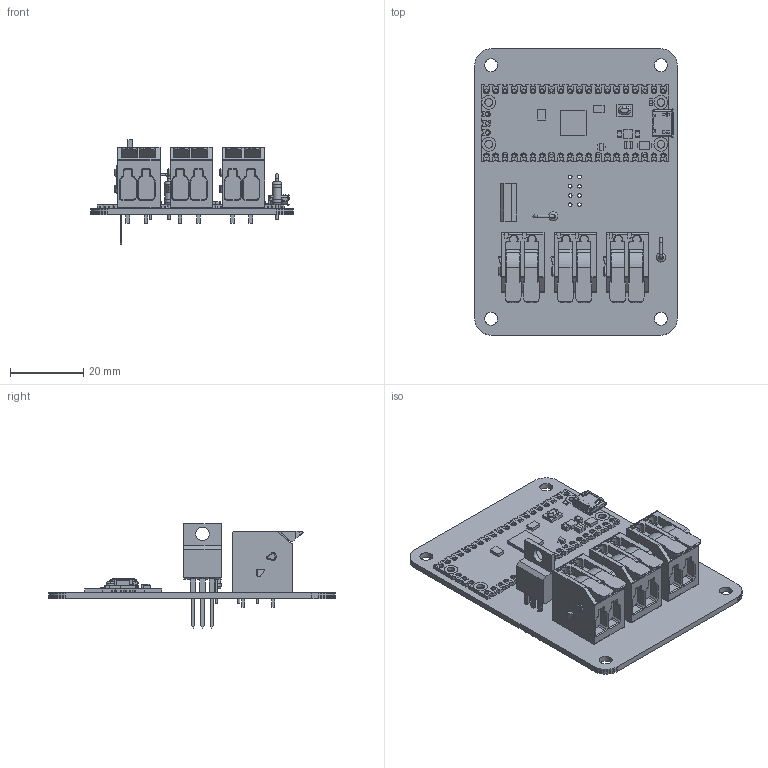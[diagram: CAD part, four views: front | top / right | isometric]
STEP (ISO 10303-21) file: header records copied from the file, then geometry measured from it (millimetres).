
FILE_DESCRIPTION(('KiCad electronic assembly'),'2;1');
FILE_NAME('detonator.step','2024-06-30T21:36:43',('Pcbnew'),('Kicad'), 'Open CASCADE STEP processor 7.7','KiCad to STEP converter','Unknown' );
FILE_SCHEMA(('AUTOMOTIVE_DESIGN { 1 0 10303 214 1 1 1 1 }'));
Length unit declared in the file: millimetre
Products named in the file (10): detonator 1; R_Axial_DIN0207_L6.3mm_D2.5mm_P5.08mm_Vertical; SOLID; TO-220-3_Vertical; SC0915; COMPOUND; 2604-1102; _autosave-detonator PCB
Assembly tree (12 placements, depth 3):
  detonator 1
    R_Axial_DIN0207_L6.3mm_D2.5mm_P5.08mm_Vertical  x2
      SOLID
    TO-220-3_Vertical
      SOLID
    SC0915
      COMPOUND
    2604-1102  x3
      SOLID
    _autosave-detonator PCB
Bounding box: 55.24 x 78.11 x 28.52 mm (x, y, z)
Volume: 16606 mm3; surface area: 19755.3 mm2
Topology: 101 solids, 101 shells, 2478 faces, 6364 edges, 4109 vertices
Faces by surface type: plane 1580, cylinder 789, cone 83, torus 14, sphere 8, revolution 4
Full cylindrical faces by diameter (mm): 0.6 x8, 0.8 x4, 1 x8, 1.1 x3, 1.397 x12, 2.25 x2, 2.5 x4, 3.5 x4, 3.735 x1
Entity records: 132640 total; most frequent: CARTESIAN_POINT 26678, DIRECTION 19734, LINE 12458, VECTOR 12458, ORIENTED_EDGE 10094, PCURVE 10094, DEFINITIONAL_REPRESENTATION 10094, EDGE_CURVE 5047
